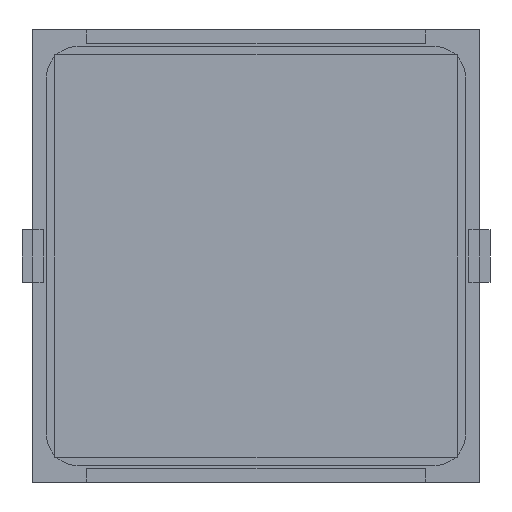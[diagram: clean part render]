
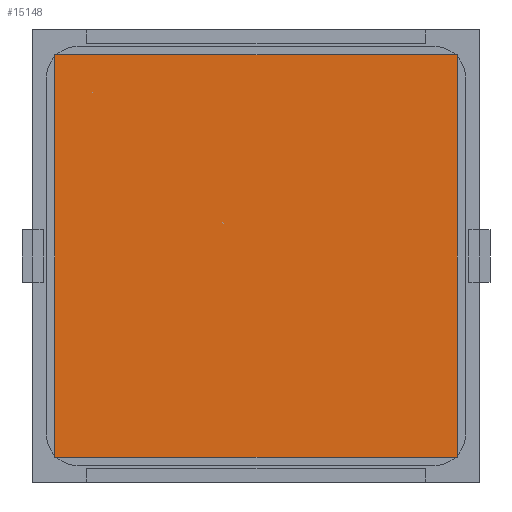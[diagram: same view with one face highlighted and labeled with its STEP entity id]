
A CAD part, front view. The second image highlights one B-rep face of the part: STEP entity #15148.
In plain terms, the highlighted planar face has unit normal (0, -1, 0).
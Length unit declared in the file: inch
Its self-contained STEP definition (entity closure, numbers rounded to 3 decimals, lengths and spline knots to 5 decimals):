
#106 = ORIENTED_EDGE ( 'NONE', *, *, #11539, .T. ) ;
#332 = VERTEX_POINT ( 'NONE', #16288 ) ;
#360 = DIRECTION ( 'NONE',  ( -1., 0., 0. ) ) ;
#1176 = FACE_OUTER_BOUND ( 'NONE', #1889, .T. ) ;
#1801 = DIRECTION ( 'NONE',  ( 0., 0., 1. ) ) ;
#1844 = CARTESIAN_POINT ( 'NONE',  ( 0.74803, -0.005, 0.74803 ) ) ;
#1889 = EDGE_LOOP ( 'NONE', ( #12256, #106, #10393, #6847 ) ) ;
#2840 = EDGE_CURVE ( 'NONE', #12709, #13866, #18188, .T. ) ;
#3153 = LINE ( 'NONE', #6210, #16818 ) ;
#3577 = DIRECTION ( 'NONE',  ( 1., 0., 0. ) ) ;
#3796 = DIRECTION ( 'NONE',  ( 0., 0., -1. ) ) ;
#5039 = LINE ( 'NONE', #10670, #16959 ) ;
#5054 = AXIS2_PLACEMENT_3D ( 'NONE', #11376, #12739, #6848 ) ;
#5479 = PLANE ( 'NONE',  #5054 ) ;
#6210 = CARTESIAN_POINT ( 'NONE',  ( 0.74803, -0.005, -0.74803 ) ) ;
#6847 = ORIENTED_EDGE ( 'NONE', *, *, #18367, .T. ) ;
#6848 = DIRECTION ( 'NONE',  ( 0., 0., 1. ) ) ;
#9337 = CARTESIAN_POINT ( 'NONE',  ( -0.74803, -0.005, -0.74803 ) ) ;
#10393 = ORIENTED_EDGE ( 'NONE', *, *, #2840, .T. ) ;
#10601 = VERTEX_POINT ( 'NONE', #18309 ) ;
#10670 = CARTESIAN_POINT ( 'NONE',  ( 0.74803, -0.005, -0.74803 ) ) ;
#11376 = CARTESIAN_POINT ( 'NONE',  ( 0.74803, -0.005, 0.74803 ) ) ;
#11518 = CARTESIAN_POINT ( 'NONE',  ( -0.74803, -0.005, -0.74803 ) ) ;
#11539 = EDGE_CURVE ( 'NONE', #10601, #12709, #14929, .T. ) ;
#12256 = ORIENTED_EDGE ( 'NONE', *, *, #15479, .T. ) ;
#12709 = VERTEX_POINT ( 'NONE', #13346 ) ;
#12739 = DIRECTION ( 'NONE',  ( 0., -1., 0. ) ) ;
#13346 = CARTESIAN_POINT ( 'NONE',  ( -0.74803, -0.005, 0.74803 ) ) ;
#13866 = VERTEX_POINT ( 'NONE', #11518 ) ;
#14929 = LINE ( 'NONE', #1844, #17905 ) ;
#15148 = ADVANCED_FACE ( 'NONE', ( #1176 ), #5479, .T. ) ;
#15479 = EDGE_CURVE ( 'NONE', #332, #10601, #3153, .T. ) ;
#16288 = CARTESIAN_POINT ( 'NONE',  ( 0.74803, -0.005, -0.74803 ) ) ;
#16818 = VECTOR ( 'NONE', #1801, 39.37008 ) ;
#16959 = VECTOR ( 'NONE', #3577, 39.37008 ) ;
#17613 = VECTOR ( 'NONE', #3796, 39.37008 ) ;
#17905 = VECTOR ( 'NONE', #360, 39.37008 ) ;
#18188 = LINE ( 'NONE', #9337, #17613 ) ;
#18309 = CARTESIAN_POINT ( 'NONE',  ( 0.74803, -0.005, 0.74803 ) ) ;
#18367 = EDGE_CURVE ( 'NONE', #13866, #332, #5039, .T. ) ;
